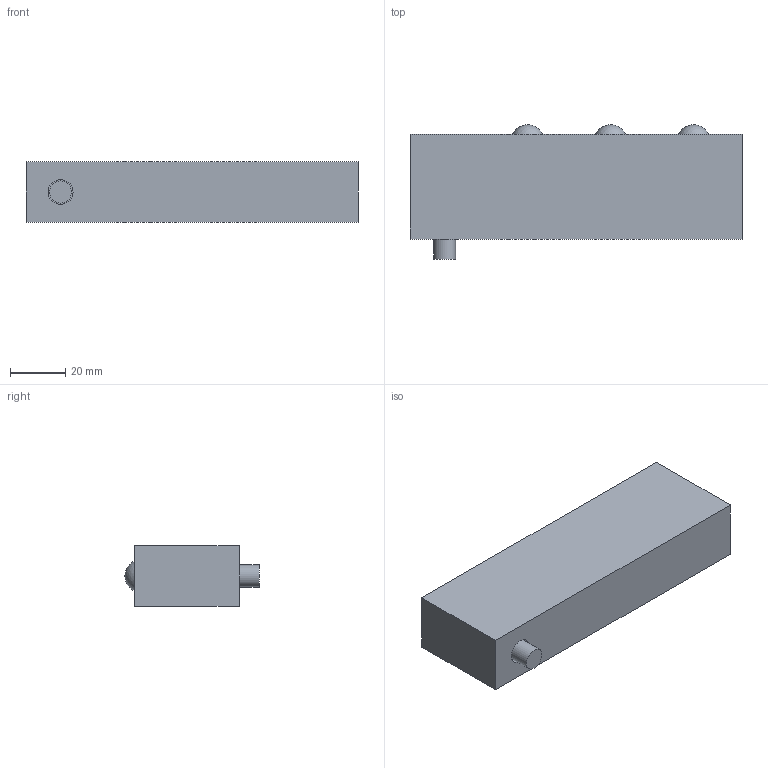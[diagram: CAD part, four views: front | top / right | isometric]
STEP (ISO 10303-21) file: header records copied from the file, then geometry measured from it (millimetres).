
FILE_DESCRIPTION(/* description */ (''),/* implementation_level */ '2;1');
FILE_NAME(/* name */ 'V:\Shrinkwrap\EMB\EMB - SHRINKWRAP\EMB22\EMB22-3_Shrinkwrap_1.stp',/* time_stamp */ '2022-08-12T10:24:39+02:00',/* author */ ('cw'),/* organization */ (''),/* preprocessor_version */ 'ST-DEVELOPER v17',/* originating_system */ 'Autodesk Inventor 2019',/* authorisation */ '');
FILE_SCHEMA (('AUTOMOTIVE_DESIGN { 1 0 10303 214 3 1 1 }'));
Length unit declared in the file: millimetre
Products named in the file (1): EMB22-3_Shrinkwrap_1
Bounding box: 120 x 48.46 x 21.8 mm (x, y, z)
Volume: 96847.7 mm3; surface area: 18358.5 mm2
Topology: 1 solids, 1 shells, 17 faces, 31 edges, 25 vertices
Faces by surface type: plane 10, cylinder 4, sphere 3
Full cylindrical faces by diameter (mm): 8 x1, 9 x1, 13 x1, 14 x1
Entity records: 511 total; most frequent: DIRECTION 78, CARTESIAN_POINT 72, ORIENTED_EDGE 58, AXIS2_PLACEMENT_3D 31, EDGE_CURVE 29, EDGE_LOOP 24, VERTEX_POINT 21, STYLED_ITEM 20
